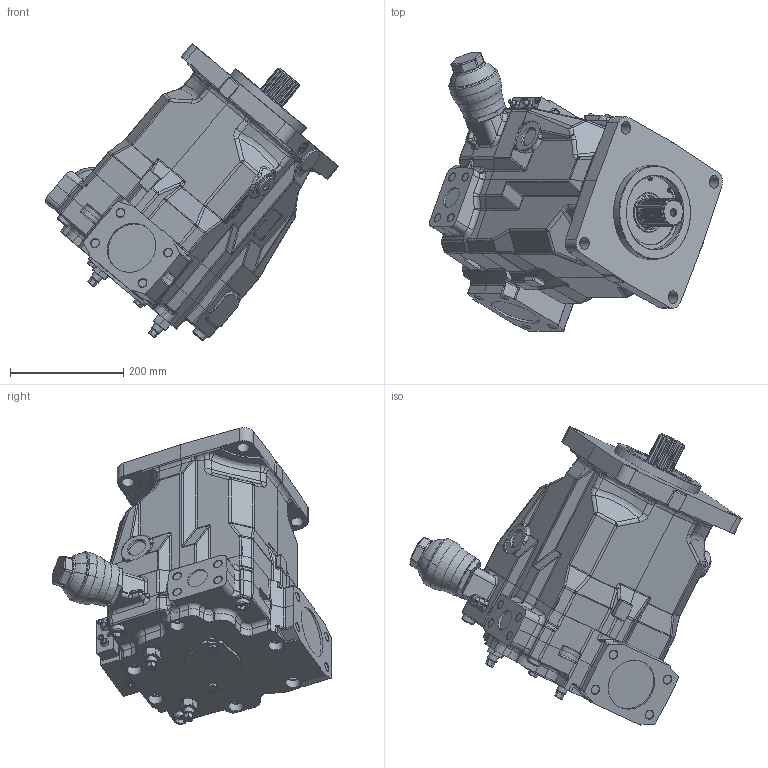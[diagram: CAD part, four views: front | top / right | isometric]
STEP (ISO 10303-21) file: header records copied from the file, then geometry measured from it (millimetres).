
FILE_DESCRIPTION(/* description */ (''),/* implementation_level */ '2;1');
FILE_NAME(/* name */ '1850396m355.stp',/* time_stamp */ '2012-03-30T14:29:12+02:00',/* author */ (''),/* organization */ (''),/* preprocessor_version */ 'ST-DEVELOPER v11',/* originating_system */ 'SIEMENS PLM Software NX 7.5',/* authorisation */ '');
FILE_SCHEMA (('AUTOMOTIVE_DESIGN { 1 0 10303 214 1 1 1 1 }'));
Products named in the file (1): 1850396m355
Bounding box: 516.86 x 491.77 x 523.24 mm (x, y, z)
Volume: 31868203.8 mm3; surface area: 1180861 mm2
Topology: 10 solids, 25 shells, 2892 faces, 6893 edges, 4214 vertices
Faces by surface type: plane 902, cylinder 823, bspline 358, cone 344, torus 209, revolution 114, extrusion 108, sphere 34
Full cylindrical faces by diameter (mm): 1 x2, 4 x3, 5 x8, 6 x1, 6.8 x6, 8 x9, 8.5 x2, 9 x10, 9.2 x3, 10 x6, 10.2 x2, 10.579 x2, 11 x8, 11.63 x3, 11.7 x3, 12.25 x1, 12.5 x2, 13 x4, 13.8 x1, 14 x10, 14.63 x2, 15 x3, 15.7 x2, 16 x17, 17.5 x19, 18 x4, 18.8 x6, 19.5 x2, 20 x2, 22 x4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
Entity records: 94114 total; most frequent: CARTESIAN_POINT 32248, ORIENTED_EDGE 12724, DIRECTION 12256, EDGE_CURVE 6362, AXIS2_PLACEMENT_3D 4871, VERTEX_POINT 4066, EDGE_LOOP 3459, ADVANCED_FACE 2892
